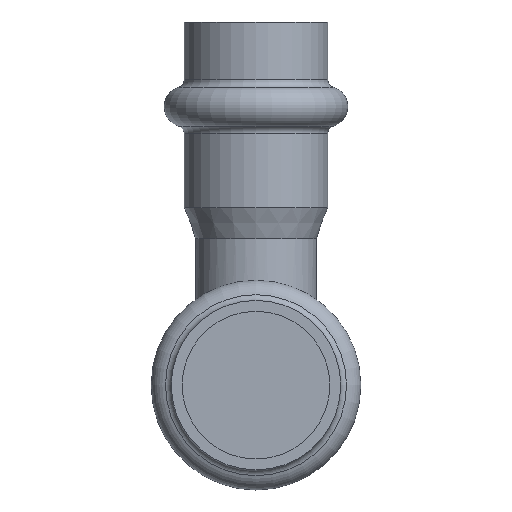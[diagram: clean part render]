
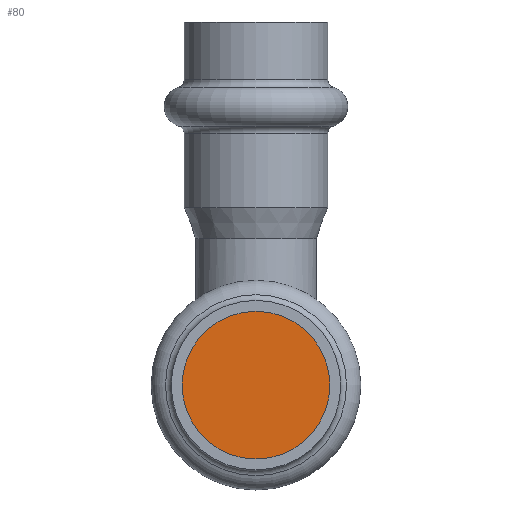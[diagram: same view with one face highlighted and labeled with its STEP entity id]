
A CAD part, front view. The second image highlights one B-rep face of the part: STEP entity #80.
In plain terms, the highlighted planar face has unit normal (0, -1, 0).
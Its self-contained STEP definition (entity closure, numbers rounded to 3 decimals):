
#80=ADVANCED_FACE('',(#325),#327,.T.);
#325=FACE_BOUND('',#326,.T.);
#326=EDGE_LOOP('',(#395));
#327=PLANE('',#328);
#328=AXIS2_PLACEMENT_3D('',#329,#330,#331);
#329=CARTESIAN_POINT('',(0.,-37.354,0.));
#330=DIRECTION('',(0.,-1.,0.));
#331=DIRECTION('',(0.,0.,-1.));
#395=ORIENTED_EDGE('',*,*,#424,.T.);
#424=EDGE_CURVE('',#480,#480,#481,.F.);
#480=VERTEX_POINT('',#856);
#481=CIRCLE('',#857,9.15);
#856=CARTESIAN_POINT('',(0.,-37.354,9.15));
#857=AXIS2_PLACEMENT_3D('',#858,#859,#860);
#858=CARTESIAN_POINT('',(0.,-37.354,0.));
#859=DIRECTION('',(0.,1.,0.));
#860=DIRECTION('',(0.,0.,1.));
